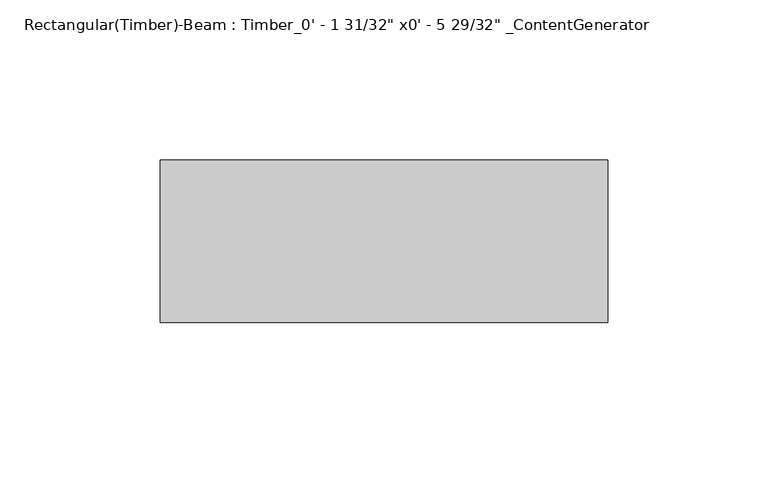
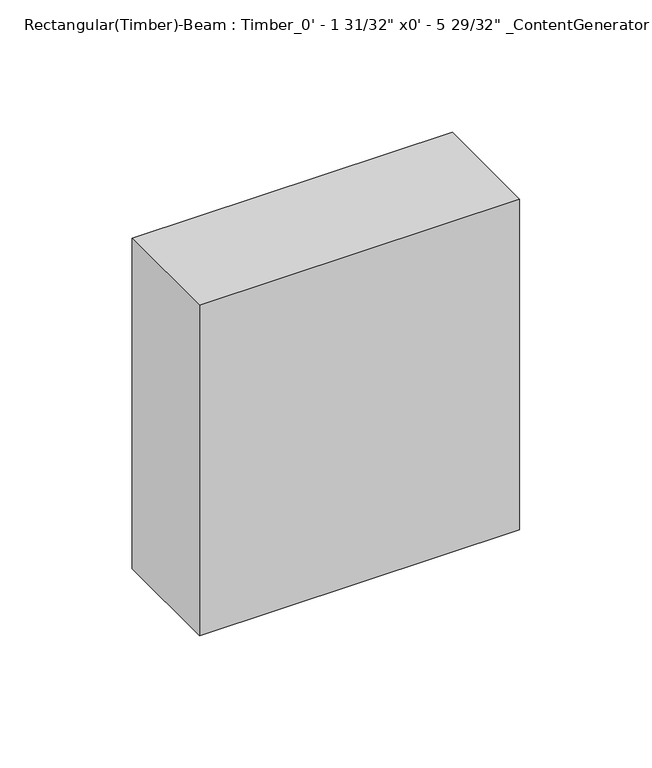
"""IFC4 building model written with IfcOpenShell, lengths in millimetres: beam geometry."""

from ifc_helpers import new_model, si_unit, frame, origin, place, context, project, spatial, polyline, outline, extrude, source, transform, mapped, element, save


def beam_f281b755(model_context):
    return source(origin(), model_context, "Body", "SweptSolid", [
        extrude(outline(polyline([(69.855, 25.4), (69.855, -25.4), (-69.855, -25.4), (-69.855, 25.4), (69.855, 25.4)])), frame((0.0, 0.0, -76.2), z_axis=(0.0, 0.0, 1.0), x_axis=(1.0, 0.0, 0.0)), (0.0, 0.0, 1.0), 152.4),
    ])


if __name__ == "__main__":
    model = new_model("IFC4")
    model_context = context("Model", 3, world=origin())
    ifc_project = project(units=[si_unit("LENGTHUNIT", "METRE", prefix="MILLI")], contexts=[model_context])
    site = spatial("IfcSite", under=ifc_project)
    building = spatial("IfcBuilding", under=site)
    placement = place(None, origin())
    beam_shape = beam_f281b755(model_context)
    element("IfcBeam", 1, ObjectType="Rectangular(Timber)-Beam : Timber_0' - 1 31/32\" x0' - 5 29/32\" _ContentGenerator", at=placement, inside=building, context=model_context, shape_type="MappedRepresentation", body=[
        mapped(beam_shape, transform((0.0, 0.0, 0.0), x_axis=(1.0, 0.0, 0.0), y_axis=(0.0, 1.0, 0.0), z_axis=(0.0, 0.0, 1.0))),
    ])
    save(model, "model.ifc")
